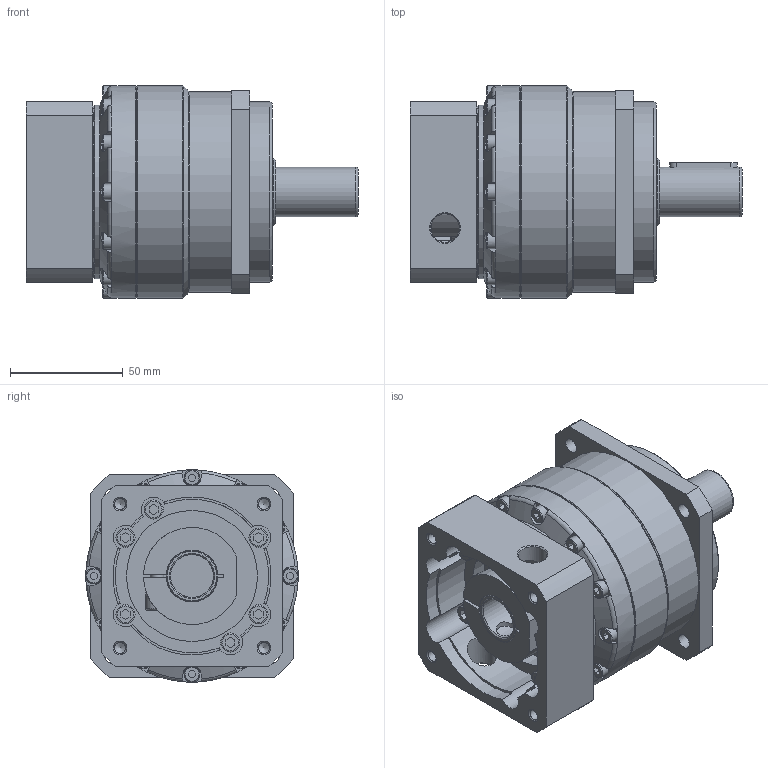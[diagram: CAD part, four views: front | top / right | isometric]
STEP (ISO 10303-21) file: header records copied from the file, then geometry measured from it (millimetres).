
FILE_DESCRIPTION(/* description */ (''),/* implementation_level */ '2;1');
FILE_NAME(/* name */ 'WEB090-L1-70-90-M6-19-41.stp',/* time_stamp */ '2025-06-26T10:46:08+08:00',/* author */ (''),/* organization */ (''),/* preprocessor_version */ 'ST-DEVELOPER v16.7',/* originating_system */ 'SIEMENS PLM Software NX 12.0',/* authorisation */ '');
FILE_SCHEMA (('AUTOMOTIVE_DESIGN { 1 0 10303 214 3 1 1 1 }'));
Length unit declared in the file: millimetre
Products named in the file (1): WXHQ2C887B7Dfsom
Bounding box: 147 x 94 x 94 mm (x, y, z)
Volume: 614286.4 mm3; surface area: 96496.5 mm2
Topology: 5 solids, 5 shells, 393 faces, 973 edges, 629 vertices
Faces by surface type: plane 239, cylinder 95, torus 34, cone 25
Full cylindrical faces by diameter (mm): 4.917 x4, 6 x1, 6.5 x1, 6.6 x4, 6.647 x1, 7 x12, 8.5 x6, 9.88 x1, 10 x4, 12.7 x2, 19 x1, 22 x1, 23 x1, 30 x2, 35 x1, 58 x1, 77 x1, 80 x1, 89 x1, 94 x2
Entity records: 13989 total; most frequent: CARTESIAN_POINT 2552, DIRECTION 1844, ORIENTED_EDGE 1710, EDGE_CURVE 855, AXIS2_PLACEMENT_3D 667, VERTEX_POINT 612, EDGE_LOOP 552, LINE 510
